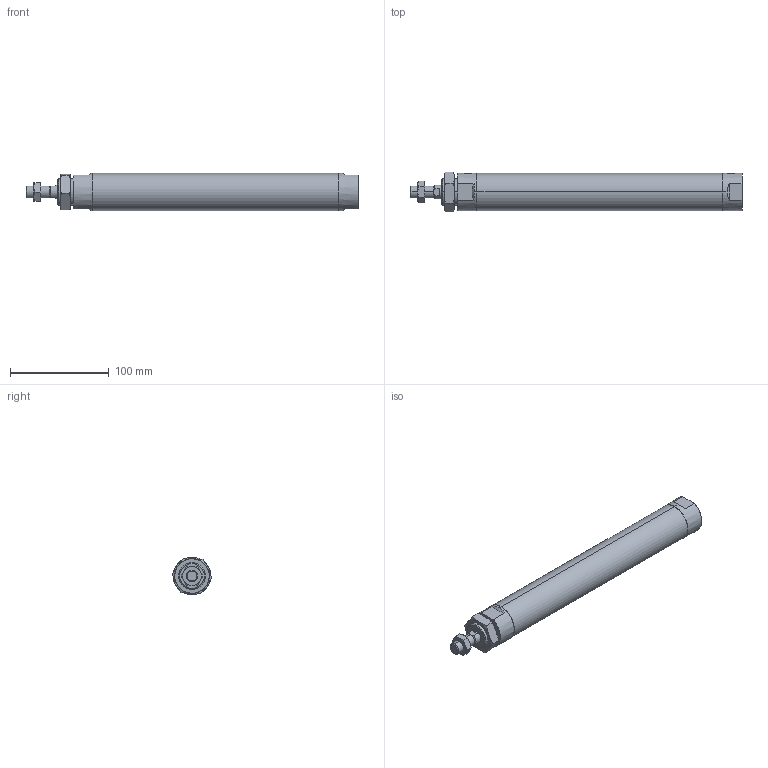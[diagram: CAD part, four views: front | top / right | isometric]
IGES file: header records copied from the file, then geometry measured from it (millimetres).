
Start section: SolidWorks IGES file using analytic representation for surfaces
Global section: file name: C:\Users\Toshiba\Desktop\JGND2-32-200-N.IGS; native system: SolidWorks 2014; preprocessor: SolidWorks 2014; author: Toshiba; date: 160804.105726; units: millimetre
Bounding box: 337 x 40.33 x 38 mm (x, y, z)
Surface area: 44340.8 mm2 (no closed solid volume)
Topology: 0 solids, 0 shells, 89 faces, 1572 edges, 1568 vertices
Faces by surface type: bspline 56, revolution 33
